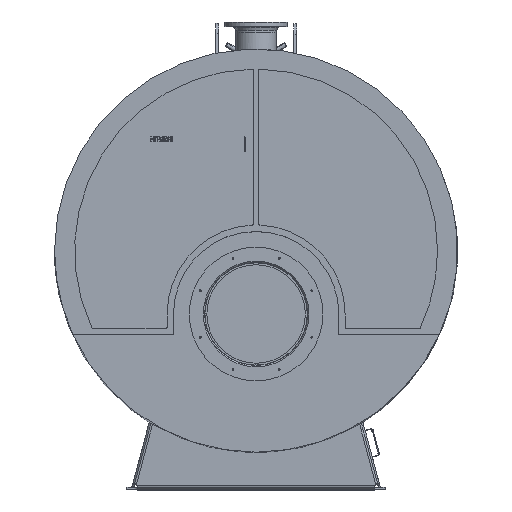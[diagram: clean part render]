
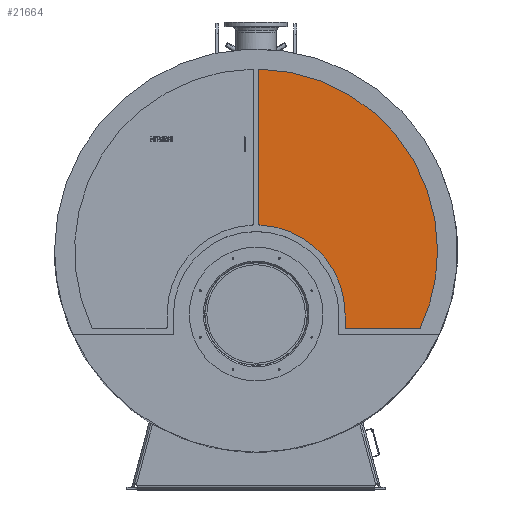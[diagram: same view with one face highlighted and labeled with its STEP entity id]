
A CAD part, top view. The second image highlights one B-rep face of the part: STEP entity #21664.
In plain terms, the highlighted planar face has unit normal (0, 0, 1).
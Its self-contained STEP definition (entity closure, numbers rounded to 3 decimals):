
#21391=CARTESIAN_POINT('',(19.929,137.141,283.));
#21392=VERTEX_POINT('',#21391);
#21399=CARTESIAN_POINT('',(14.582,143.088,283.));
#21400=VERTEX_POINT('',#21399);
#21401=CARTESIAN_POINT('',(20.582,143.105,283.));
#21402=DIRECTION('',(0.,0.,-1.));
#21403=DIRECTION('',(1.,0.,0.));
#21404=AXIS2_PLACEMENT_3D('',#21401,#21402,#21403);
#21405=CIRCLE('',#21404,6.);
#21406=EDGE_CURVE('',#21392,#21400,#21405,.T.);
#21422=CARTESIAN_POINT('',(12.167,970.312,283.));
#21423=VERTEX_POINT('',#21422);
#21424=CARTESIAN_POINT('',(14.582,143.088,283.));
#21425=DIRECTION('',(-0.003,1.,0.));
#21426=VECTOR('',#21425,827.228);
#21427=LINE('',#21424,#21426);
#21428=EDGE_CURVE('',#21400,#21423,#21427,.T.);
#21446=CARTESIAN_POINT('',(18.279,976.329,283.));
#21447=VERTEX_POINT('',#21446);
#21448=CARTESIAN_POINT('',(18.167,970.33,283.));
#21449=DIRECTION('',(0.,0.,-1.));
#21450=DIRECTION('',(1.,0.,0.));
#21451=AXIS2_PLACEMENT_3D('',#21448,#21449,#21450);
#21452=CIRCLE('',#21451,6.);
#21453=EDGE_CURVE('',#21423,#21447,#21452,.T.);
#21472=CARTESIAN_POINT('',(976.5,0.,283.));
#21473=VERTEX_POINT('',#21472);
#21482=CARTESIAN_POINT('',(-0.,-0.,283.));
#21483=DIRECTION('',(0.,0.,-1.));
#21484=DIRECTION('',(1.,0.,0.));
#21485=AXIS2_PLACEMENT_3D('',#21482,#21483,#21484);
#21486=CIRCLE('',#21485,976.5);
#21487=EDGE_CURVE('',#21447,#21473,#21486,.T.);
#21499=CARTESIAN_POINT('',(20.74,137.05,283.));
#21500=VERTEX_POINT('',#21499);
#21507=CARTESIAN_POINT('',(21.,143.045,283.));
#21508=DIRECTION('',(-0.,-0.,1.));
#21509=DIRECTION('',(-1.,0.,0.));
#21510=AXIS2_PLACEMENT_3D('',#21507,#21508,#21509);
#21511=CIRCLE('',#21510,6.);
#21512=EDGE_CURVE('',#21392,#21500,#21511,.T.);
#21522=CARTESIAN_POINT('',(478.5,-341.,283.));
#21523=VERTEX_POINT('',#21522);
#21524=CARTESIAN_POINT('',(0.,-341.,283.));
#21525=DIRECTION('',(0.,0.,-1.));
#21526=DIRECTION('',(1.,0.,0.));
#21527=AXIS2_PLACEMENT_3D('',#21524,#21525,#21526);
#21528=CIRCLE('',#21527,478.5);
#21529=EDGE_CURVE('',#21500,#21523,#21528,.T.);
#21548=CARTESIAN_POINT('',(478.5,-413.,283.));
#21549=VERTEX_POINT('',#21548);
#21556=CARTESIAN_POINT('',(478.5,-341.,283.));
#21557=DIRECTION('',(0.,-1.,0.));
#21558=VECTOR('',#21557,72.);
#21559=LINE('',#21556,#21558);
#21560=EDGE_CURVE('',#21523,#21549,#21559,.T.);
#21572=CARTESIAN_POINT('',(878.238,-419.,283.));
#21573=VERTEX_POINT('',#21572);
#21580=CARTESIAN_POINT('',(484.5,-419.,283.));
#21581=VERTEX_POINT('',#21580);
#21582=CARTESIAN_POINT('',(484.5,-419.,283.));
#21583=DIRECTION('',(1.,0.,0.));
#21584=VECTOR('',#21583,393.738);
#21585=LINE('',#21582,#21584);
#21586=EDGE_CURVE('',#21581,#21573,#21585,.T.);
#21603=CARTESIAN_POINT('',(883.667,-415.553,283.));
#21604=VERTEX_POINT('',#21603);
#21611=CARTESIAN_POINT('',(878.238,-413.,283.));
#21612=DIRECTION('',(-0.,-0.,1.));
#21613=DIRECTION('',(-1.,0.,0.));
#21614=AXIS2_PLACEMENT_3D('',#21611,#21612,#21613);
#21615=CIRCLE('',#21614,6.);
#21616=EDGE_CURVE('',#21573,#21604,#21615,.T.);
#21629=CARTESIAN_POINT('',(484.5,-413.,283.));
#21630=DIRECTION('',(-0.,-0.,1.));
#21631=DIRECTION('',(-1.,0.,0.));
#21632=AXIS2_PLACEMENT_3D('',#21629,#21630,#21631);
#21633=CIRCLE('',#21632,6.);
#21634=EDGE_CURVE('',#21549,#21581,#21633,.T.);
#21640=CARTESIAN_POINT('',(-495.75,278.636,283.));
#21641=DIRECTION('',(0.,0.,1.));
#21642=DIRECTION('',(1.,0.,0.));
#21643=AXIS2_PLACEMENT_3D('',#21640,#21641,#21642);
#21644=PLANE('',#21643);
#21645=ORIENTED_EDGE('',*,*,#21406,.F.);
#21646=ORIENTED_EDGE('',*,*,#21512,.T.);
#21647=ORIENTED_EDGE('',*,*,#21529,.T.);
#21648=ORIENTED_EDGE('',*,*,#21560,.T.);
#21649=ORIENTED_EDGE('',*,*,#21634,.T.);
#21650=ORIENTED_EDGE('',*,*,#21586,.T.);
#21651=ORIENTED_EDGE('',*,*,#21616,.T.);
#21652=CARTESIAN_POINT('',(-0.,-0.,283.));
#21653=DIRECTION('',(0.,0.,-1.));
#21654=DIRECTION('',(1.,0.,0.));
#21655=AXIS2_PLACEMENT_3D('',#21652,#21653,#21654);
#21656=CIRCLE('',#21655,976.5);
#21657=EDGE_CURVE('',#21473,#21604,#21656,.T.);
#21658=ORIENTED_EDGE('',*,*,#21657,.F.);
#21659=ORIENTED_EDGE('',*,*,#21487,.F.);
#21660=ORIENTED_EDGE('',*,*,#21453,.F.);
#21661=ORIENTED_EDGE('',*,*,#21428,.F.);
#21662=EDGE_LOOP('',(#21645,#21646,#21647,#21648,#21649,#21650,#21651,#21658,#21659,#21660,#21661));
#21663=FACE_BOUND('',#21662,.T.);
#21664=ADVANCED_FACE('',(#21663),#21644,.T.);
